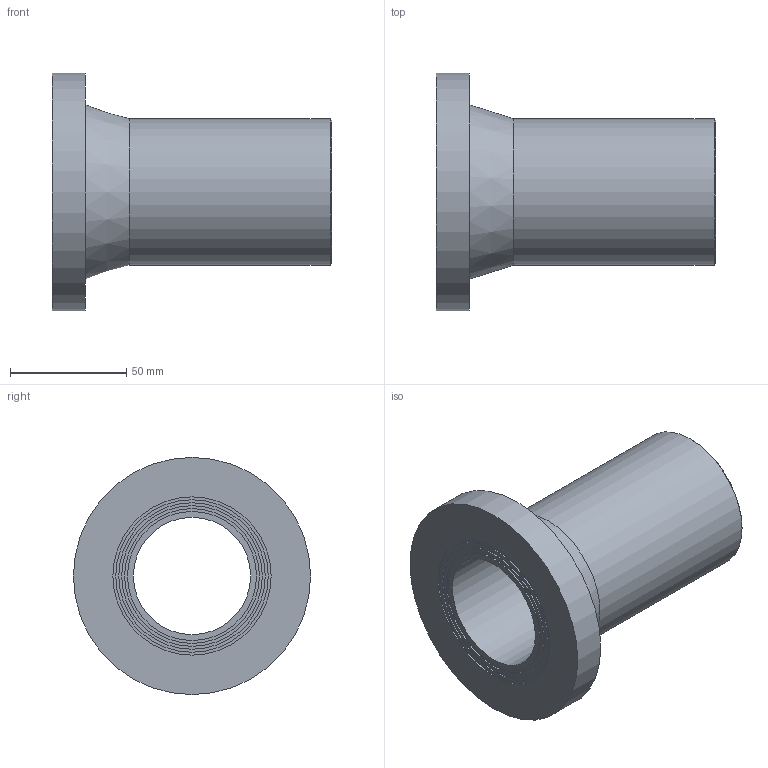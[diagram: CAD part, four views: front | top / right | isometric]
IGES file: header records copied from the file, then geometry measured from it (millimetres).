
Global section: file name: 490207063.ipt; native system: Autodesk Inventor 2015; preprocessor: unknown; author: Кирилл,,11,0; organization: 20170718.095537; date: 20190331.185815; units: millimetre
Bounding box: 120 x 102 x 102 mm (x, y, z)
Volume: 216918.3 mm3; surface area: 56736.2 mm2
Topology: 1 solids, 1 shells, 20 faces, 33 edges, 22 vertices
Faces by surface type: plane 9, cylinder 5, revolution 4, cone 2
Full cylindrical faces by diameter (mm): 55.44 x1, 60.48 x1, 63 x1, 65.52 x1, 102 x1
